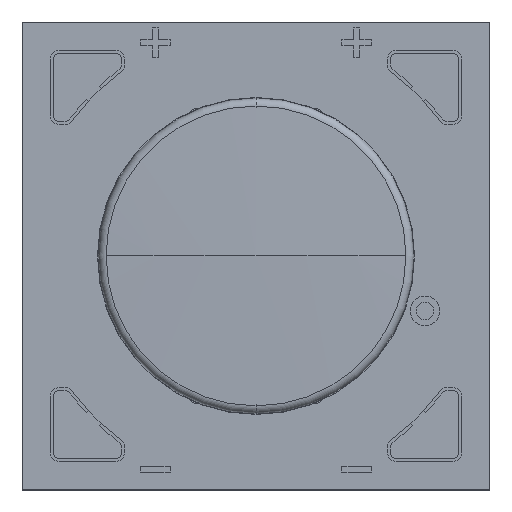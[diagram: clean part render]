
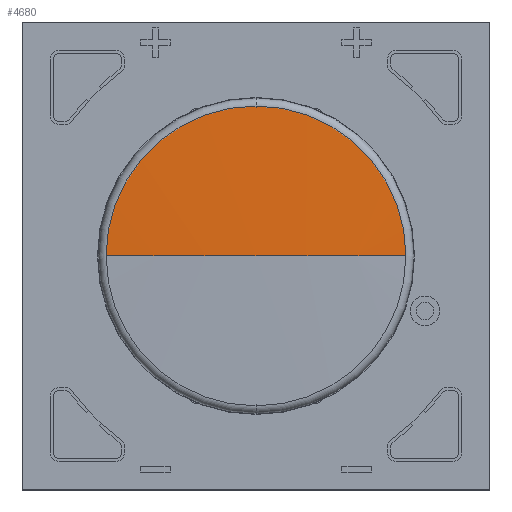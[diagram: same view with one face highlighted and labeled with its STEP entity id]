
A CAD part, top view. The second image highlights one B-rep face of the part: STEP entity #4680.
In plain terms, the highlighted spherical face has radius 126.525 mm.
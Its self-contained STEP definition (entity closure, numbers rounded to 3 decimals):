
#201 = DIRECTION ( 'NONE',  ( 0., 0., -1. ) ) ;
#347 = CARTESIAN_POINT ( 'NONE',  ( 0., 0.845, 0. ) ) ;
#403 = CIRCLE ( 'NONE', #4108, 126.525 ) ;
#462 = CIRCLE ( 'NONE', #7306, 5.061 ) ;
#580 = EDGE_LOOP ( 'NONE', ( #6302, #6435, #3155, #2815 ) ) ;
#680 = CARTESIAN_POINT ( 'NONE',  ( 0., 0.946, 0. ) ) ;
#1168 = CARTESIAN_POINT ( 'NONE',  ( 0., 0.845, -5.061 ) ) ;
#1187 = DIRECTION ( 'NONE',  ( 1., 0., 0. ) ) ;
#1303 = VERTEX_POINT ( 'NONE', #680 ) ;
#1587 = CARTESIAN_POINT ( 'NONE',  ( 0., -125.579, 0. ) ) ;
#1614 = CARTESIAN_POINT ( 'NONE',  ( 0., -125.579, 0. ) ) ;
#1730 = EDGE_CURVE ( 'NONE', #3139, #6208, #4383, .T. ) ;
#1749 = EDGE_CURVE ( 'NONE', #2391, #3139, #462, .T. ) ;
#1937 = DIRECTION ( 'NONE',  ( 0., 0., -1. ) ) ;
#2391 = VERTEX_POINT ( 'NONE', #4179 ) ;
#2595 = CARTESIAN_POINT ( 'NONE',  ( 0., 0.845, 0. ) ) ;
#2674 = AXIS2_PLACEMENT_3D ( 'NONE', #3780, #4392, #4161 ) ;
#2815 = ORIENTED_EDGE ( 'NONE', *, *, #1749, .F. ) ;
#2861 = DIRECTION ( 'NONE',  ( 0., -1., 0. ) ) ;
#2934 = EDGE_CURVE ( 'NONE', #1303, #2391, #403, .T. ) ;
#3139 = VERTEX_POINT ( 'NONE', #1168 ) ;
#3155 = ORIENTED_EDGE ( 'NONE', *, *, #1730, .F. ) ;
#3474 = EDGE_CURVE ( 'NONE', #1303, #6208, #4851, .T. ) ;
#3552 = CARTESIAN_POINT ( 'NONE',  ( 5.061, 0.845, 0. ) ) ;
#3718 = DIRECTION ( 'NONE',  ( -1., 0., 0. ) ) ;
#3780 = CARTESIAN_POINT ( 'NONE',  ( 0., -125.579, 0. ) ) ;
#4070 = AXIS2_PLACEMENT_3D ( 'NONE', #1587, #201, #3718 ) ;
#4108 = AXIS2_PLACEMENT_3D ( 'NONE', #1614, #5083, #1187 ) ;
#4161 = DIRECTION ( 'NONE',  ( 1., 0., 0. ) ) ;
#4179 = CARTESIAN_POINT ( 'NONE',  ( -5.061, 0.845, 0. ) ) ;
#4230 = DIRECTION ( 'NONE',  ( 0., 0., -1. ) ) ;
#4383 = CIRCLE ( 'NONE', #6567, 5.061 ) ;
#4392 = DIRECTION ( 'NONE',  ( 0., 0., 1. ) ) ;
#4407 = DIRECTION ( 'NONE',  ( 0., -1., 0. ) ) ;
#4680 = ADVANCED_FACE ( 'NONE', ( #6479 ), #4821, .T. ) ;
#4821 = SPHERICAL_SURFACE ( 'NONE', #2674, 126.525 ) ;
#4851 = CIRCLE ( 'NONE', #4070, 126.525 ) ;
#5083 = DIRECTION ( 'NONE',  ( 0., 0., 1. ) ) ;
#6208 = VERTEX_POINT ( 'NONE', #3552 ) ;
#6302 = ORIENTED_EDGE ( 'NONE', *, *, #2934, .F. ) ;
#6435 = ORIENTED_EDGE ( 'NONE', *, *, #3474, .T. ) ;
#6479 = FACE_OUTER_BOUND ( 'NONE', #580, .T. ) ;
#6567 = AXIS2_PLACEMENT_3D ( 'NONE', #347, #4407, #4230 ) ;
#7306 = AXIS2_PLACEMENT_3D ( 'NONE', #2595, #2861, #1937 ) ;
